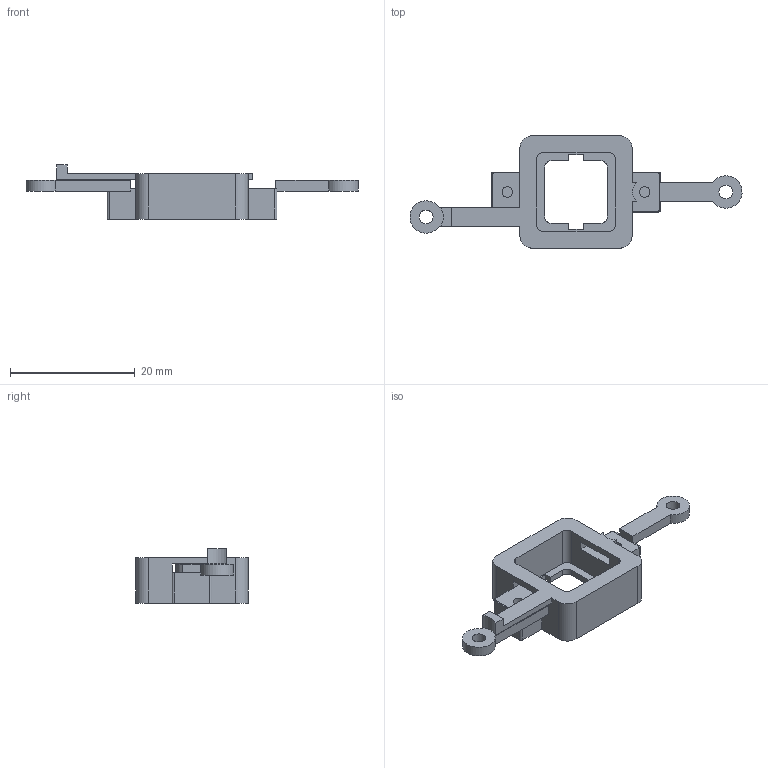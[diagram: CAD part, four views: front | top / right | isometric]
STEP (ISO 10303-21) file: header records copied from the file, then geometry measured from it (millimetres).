
FILE_DESCRIPTION(('Open CASCADE Model'),'2;1');
FILE_NAME('Open CASCADE Shape Model','2026-09-09T11:50:29',('Author'),( 'Open CASCADE'),'Open CASCADE STEP processor 7.7','Open CASCADE 7.7' ,'Unknown');
FILE_SCHEMA(('AUTOMOTIVE_DESIGN { 1 0 10303 214 1 1 1 1 }'));
Length unit declared in the file: millimetre
Products named in the file (1): Open CASCADE STEP translator 7.7 16
Bounding box: 53.18 x 18 x 8.7 mm (x, y, z)
Volume: 1661.4 mm3; surface area: 2021.1 mm2
Topology: 1 solids, 1 shells, 90 faces, 256 edges, 169 vertices
Faces by surface type: plane 62, cylinder 28
Full cylindrical faces by diameter (mm): 1.7 x2, 2.2 x2
Entity records: 6319 total; most frequent: CARTESIAN_POINT 1136, DIRECTION 983, LINE 650, VECTOR 650, ORIENTED_EDGE 512, PCURVE 512, DEFINITIONAL_REPRESENTATION 512, EDGE_CURVE 256
